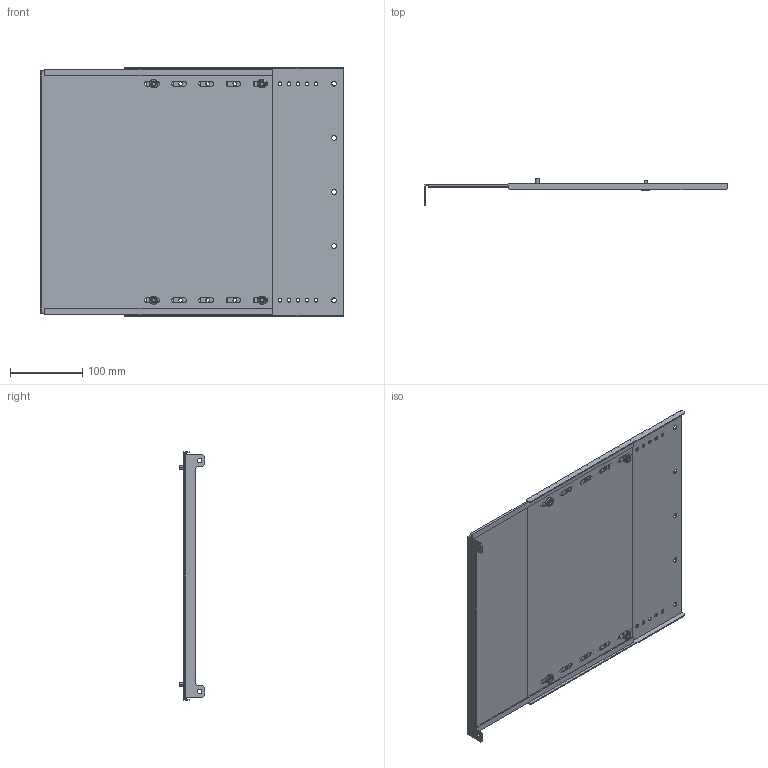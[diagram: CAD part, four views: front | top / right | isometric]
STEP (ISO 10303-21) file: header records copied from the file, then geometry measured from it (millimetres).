
FILE_DESCRIPTION (( 'STEP AP214' ), '1' );
FILE_NAME ('FO-00-SWVB-035-040 Ïåðåãîðîäêà ñåêöèîíèðîâàíèÿ âåðòèêàëüíàÿ äëÿ âåðòèêàëüíîãî øèííîãî îòñåêà 350õ400 ìì â øêàô ãëóáèíîé 800 ìì.STEP', '2025-08-06T13:42:37', ( '' ), ( '' ), 'SwSTEP 2.0', 'SolidWorks 2023', '' );
FILE_SCHEMA (( 'AUTOMOTIVE_DESIGN' ));
Length unit declared in the file: millimetre
Products named in the file (4): Болты М5х350; FO-00-SWVB-035-040 Перегородка секционирования вертикальная для вертикального шинного отсека 350х400 мм в шкаф глубиной 800 мм; Перегородка секционирования 350х400; Перегородка секционирования ап 350х400
Assembly tree (4 placements, depth 2):
  FO-00-SWVB-035-040 Перегородка секционирования вертикальная для вертикального шинного отсека 350х400 мм в шкаф глубиной 800 мм
    Перегородка секционирования ап 350х400
    Перегородка секционирования 350х400
    Болты М5х350  x2
Bounding box: 419.75 x 35.7 x 344.5 mm (x, y, z)
Volume: 341590.9 mm3; surface area: 450930.2 mm2
Topology: 6 solids, 6 shells, 302 faces, 822 edges, 540 vertices
Faces by surface type: cylinder 190, plane 88, torus 16, cone 8
Entity records: 8362 total; most frequent: DIRECTION 1510, CARTESIAN_POINT 1387, ORIENTED_EDGE 1368, EDGE_CURVE 684, AXIS2_PLACEMENT_3D 575, VERTEX_POINT 452, EDGE_LOOP 362, LINE 360
